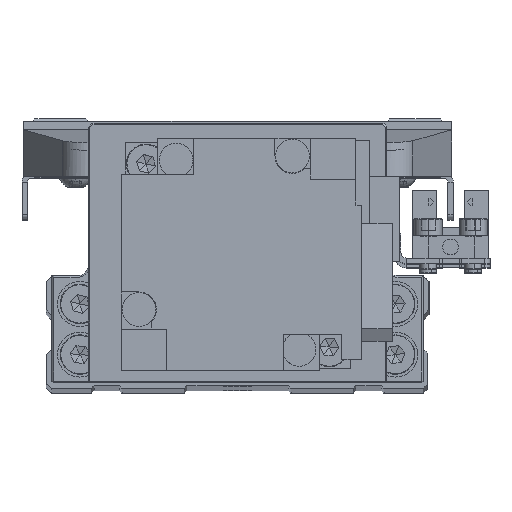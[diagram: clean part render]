
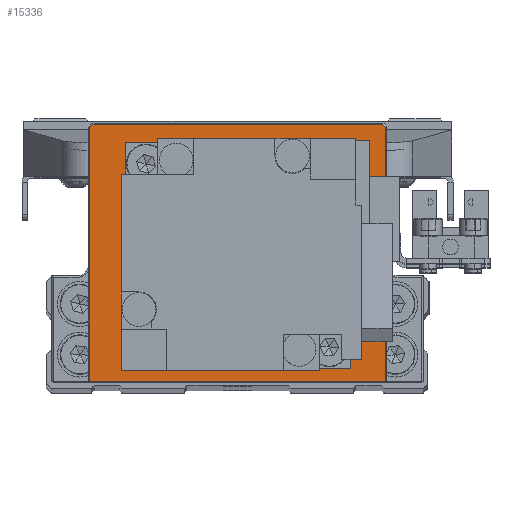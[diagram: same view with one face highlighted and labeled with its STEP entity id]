
A CAD part, top view. The second image highlights one B-rep face of the part: STEP entity #15336.
In plain terms, the highlighted planar face has unit normal (0, 0, 1) as drawn and (0, -1, 0) by its records, which use the part's own axes.
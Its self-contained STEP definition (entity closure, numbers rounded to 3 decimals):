
#557 = VECTOR ( 'NONE', #3345, 1000. ) ;
#2408 = ORIENTED_EDGE ( 'NONE', *, *, #30795, .T. ) ;
#2848 = DIRECTION ( 'NONE',  ( 0., -1., 0. ) ) ;
#2922 = ORIENTED_EDGE ( 'NONE', *, *, #33331, .T. ) ;
#3345 = DIRECTION ( 'NONE',  ( -1., 0., 0. ) ) ;
#4099 = DIRECTION ( 'NONE',  ( 0., -1., 0. ) ) ;
#5370 = EDGE_CURVE ( 'NONE', #29315, #17809, #29679, .T. ) ;
#5697 = CARTESIAN_POINT ( 'NONE',  ( 25.5, -4., 22.8 ) ) ;
#5703 = LINE ( 'NONE', #17708, #33603 ) ;
#7209 = DIRECTION ( 'NONE',  ( 0., 0., -1. ) ) ;
#7615 = LINE ( 'NONE', #19633, #27735 ) ;
#9553 = VECTOR ( 'NONE', #21669, 1000. ) ;
#9648 = CARTESIAN_POINT ( 'NONE',  ( 26.3, -4., 22. ) ) ;
#10166 = PLANE ( 'NONE',  #34132 ) ;
#11642 = EDGE_CURVE ( 'NONE', #29586, #29315, #36680, .T. ) ;
#12643 = AXIS2_PLACEMENT_3D ( 'NONE', #31132, #4099, #16118 ) ;
#14859 = DIRECTION ( 'NONE',  ( 0., 0., -1. ) ) ;
#14892 = ORIENTED_EDGE ( 'NONE', *, *, #17295, .T. ) ;
#15336 = ADVANCED_FACE ( 'NONE', ( #37195 ), #10166, .T. ) ;
#16118 = DIRECTION ( 'NONE',  ( 0., 0., -1. ) ) ;
#17295 = EDGE_CURVE ( 'NONE', #17364, #22391, #18495, .T. ) ;
#17364 = VERTEX_POINT ( 'NONE', #27687 ) ;
#17567 = CARTESIAN_POINT ( 'NONE',  ( 26.3, -4., -22.8 ) ) ;
#17708 = CARTESIAN_POINT ( 'NONE',  ( 26.5, -4., -22.8 ) ) ;
#17809 = VERTEX_POINT ( 'NONE', #5697 ) ;
#18326 = LINE ( 'NONE', #30377, #557 ) ;
#18495 = CIRCLE ( 'NONE', #23533, 0.8 ) ;
#19633 = CARTESIAN_POINT ( 'NONE',  ( -26.3, -4., -23. ) ) ;
#20773 = CARTESIAN_POINT ( 'NONE',  ( -26.3, -4., 22. ) ) ;
#21669 = DIRECTION ( 'NONE',  ( 0., 0., 1. ) ) ;
#21770 = EDGE_CURVE ( 'NONE', #17809, #17364, #18326, .T. ) ;
#22175 = CARTESIAN_POINT ( 'NONE',  ( 0., -4., 0. ) ) ;
#22391 = VERTEX_POINT ( 'NONE', #20773 ) ;
#22627 = VERTEX_POINT ( 'NONE', #25471 ) ;
#23533 = AXIS2_PLACEMENT_3D ( 'NONE', #29883, #2848, #14859 ) ;
#24270 = CARTESIAN_POINT ( 'NONE',  ( 26.3, -4., 22. ) ) ;
#24566 = ORIENTED_EDGE ( 'NONE', *, *, #11642, .T. ) ;
#25471 = CARTESIAN_POINT ( 'NONE',  ( -26.3, -4., -22.8 ) ) ;
#25647 = ORIENTED_EDGE ( 'NONE', *, *, #5370, .T. ) ;
#27687 = CARTESIAN_POINT ( 'NONE',  ( -25.5, -4., 22.8 ) ) ;
#27735 = VECTOR ( 'NONE', #31686, 1000. ) ;
#28895 = EDGE_LOOP ( 'NONE', ( #2922, #24566, #25647, #36118, #14892, #2408 ) ) ;
#29315 = VERTEX_POINT ( 'NONE', #24270 ) ;
#29586 = VERTEX_POINT ( 'NONE', #17567 ) ;
#29679 = CIRCLE ( 'NONE', #12643, 0.8 ) ;
#29753 = DIRECTION ( 'NONE',  ( 1., 0., 0. ) ) ;
#29883 = CARTESIAN_POINT ( 'NONE',  ( -25.5, -4., 22. ) ) ;
#30377 = CARTESIAN_POINT ( 'NONE',  ( -25.5, -4., 22.8 ) ) ;
#30795 = EDGE_CURVE ( 'NONE', #22391, #22627, #7615, .T. ) ;
#31132 = CARTESIAN_POINT ( 'NONE',  ( 25.5, -4., 22. ) ) ;
#31686 = DIRECTION ( 'NONE',  ( 0., 0., -1. ) ) ;
#33331 = EDGE_CURVE ( 'NONE', #22627, #29586, #5703, .T. ) ;
#33603 = VECTOR ( 'NONE', #29753, 1000. ) ;
#34132 = AXIS2_PLACEMENT_3D ( 'NONE', #22175, #34240, #7209 ) ;
#34240 = DIRECTION ( 'NONE',  ( 0., -1., 0. ) ) ;
#36118 = ORIENTED_EDGE ( 'NONE', *, *, #21770, .T. ) ;
#36680 = LINE ( 'NONE', #9648, #9553 ) ;
#37195 = FACE_OUTER_BOUND ( 'NONE', #28895, .T. ) ;
